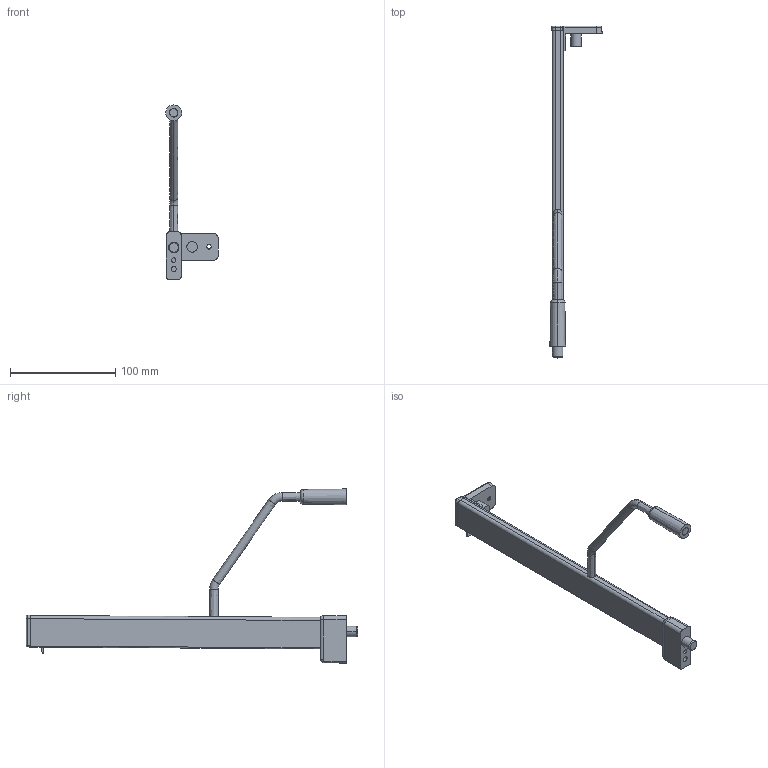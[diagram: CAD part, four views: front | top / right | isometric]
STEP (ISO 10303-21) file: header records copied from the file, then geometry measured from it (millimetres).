
FILE_DESCRIPTION (( 'STEP AP214' ), '1' );
FILE_NAME ('_2S_REL_7606_NL300_LI_Frontstütze.step', '2010-07-01T14:42:02', ( 'grass' ), ( '' ), 'SwSTEP 2.0', 'SolidWorks 2009', '' );
FILE_SCHEMA (( 'AUTOMOTIVE_DESIGN' ));
Length unit declared in the file: millimetre
Products named in the file (1): _2S_REL_7606_NL300_LI_Frontstütze
Bounding box: 49.75 x 315.5 x 165.5 mm (x, y, z)
Volume: 122305.3 mm3; surface area: 35885 mm2
Topology: 2 solids, 2 shells, 142 faces, 337 edges, 203 vertices
Faces by surface type: cylinder 60, plane 46, bspline 16, torus 12, cone 6, sphere 2
Entity records: 5403 total; most frequent: CARTESIAN_POINT 2229, ORIENTED_EDGE 670, DIRECTION 647, EDGE_CURVE 335, AXIS2_PLACEMENT_3D 247, VERTEX_POINT 203, LINE 153, VECTOR 153
